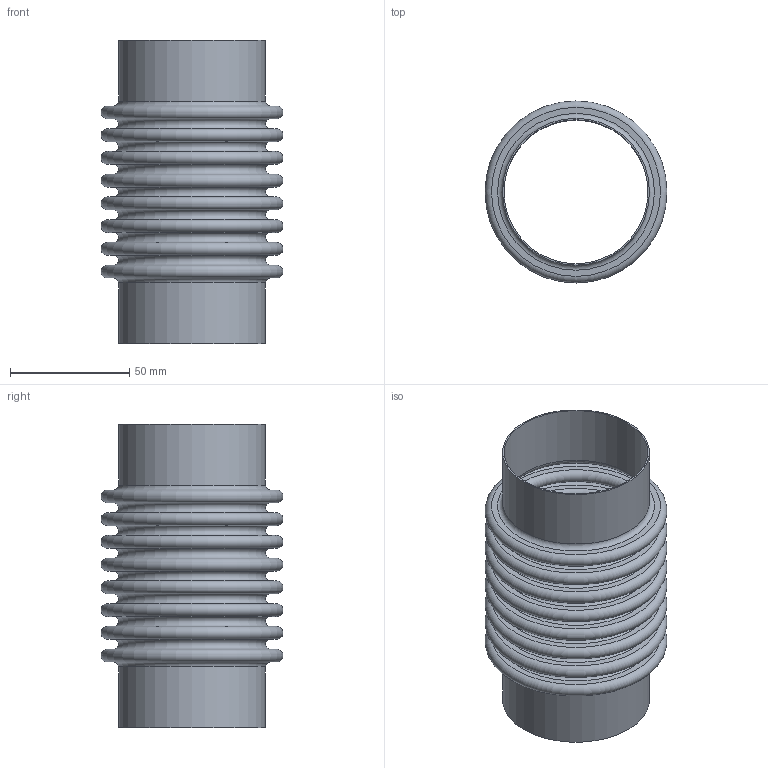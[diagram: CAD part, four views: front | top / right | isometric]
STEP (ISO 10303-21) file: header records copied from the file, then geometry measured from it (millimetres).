
FILE_DESCRIPTION(/* description */ ('STOCK BELLOWS: U.S-2-8-150S, 2.375 I.D., 3.000 O.D., 1 PLY, 24 GA (0.024 THICK), 8 CONS., 0.375 PITCH, 1.000 TANGENT. '),/* implementation_level */ '2;1');
FILE_NAME(/* name */ 'US-2-8-150S.stp',/* time_stamp */ '2026-07-21T10:54:09-05:00',/* author */ ('KennethB'),/* organization */ (''),/* preprocessor_version */ 'ST-DEVELOPER v20.1',/* originating_system */ 'Autodesk Inventor 2026',/* authorisation */ '');
FILE_SCHEMA (('AUTOMOTIVE_DESIGN { 1 0 10303 214 3 1 1 }'));
Length unit declared in the file: inch
Products named in the file (1): Part1
Bounding box: 76.2 x 76.2 x 127 mm (x, y, z)
Volume: 26942 mm3; surface area: 89092.4 mm2
Topology: 3 solids, 3 shells, 76 faces, 114 edges, 77 vertices
Faces by surface type: plane 38, torus 34, cylinder 4
Full cylindrical faces by diameter (mm): 60.325 x2, 61.544 x2
Entity records: 1814 total; most frequent: DIRECTION 378, CARTESIAN_POINT 268, ORIENTED_EDGE 228, AXIS2_PLACEMENT_3D 187, EDGE_LOOP 114, EDGE_CURVE 114, CIRCLE 110, FACE_OUTER_BOUND 76
